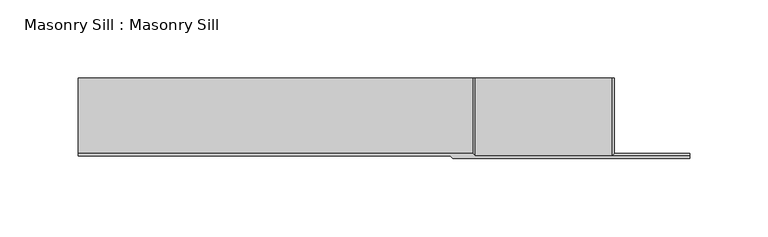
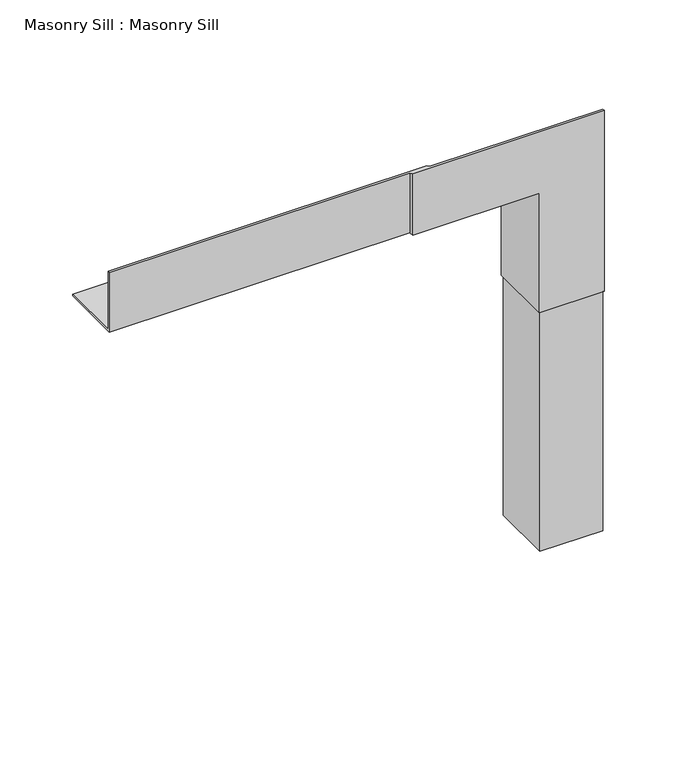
"""IFC4 building model written with IfcOpenShell, lengths in millimetres: proxy geometry, Masonry Sill : Masonry Sill."""

from ifc_helpers import new_model, si_unit, origin, place, context, project, spatial, faceted_brep, source, transform, mapped, element, save


def masonry_sill_masonry_sill_12063642(model_context):
    return source(origin(), model_context, "Body", "Brep", [
        faceted_brep([(26514.5726773, 626.0441297, 303.2125), (26514.5726773, 626.0441297, 353.2173158), (26514.5726773, 627.6316297, 353.2173158), (26514.5726773, 627.6316297, 304.8), (26514.5726773, 676.0489454, 304.8), (26514.5726773, 676.0489454, 303.2125), (26752.6976773, 626.0441297, 303.2125), (26752.6976773, 626.0441297, 353.2173158), (26754.2851773, 624.4566297, 353.2173158), (26905.8899931, 624.4566297, 353.2173158), (26905.8899931, 626.0441297, 353.2173158), (26768.5726773, 626.0441297, 353.2173158), (26766.9851773, 627.6316297, 353.2173158), (26766.9851773, 627.6316297, 304.8), (26766.9851773, 676.0489454, 304.8), (26768.5726773, 676.0489454, 303.2125), (26855.8851773, 676.0489454, 303.2125), (26855.8851773, 676.0489454, 215.9), (26857.4726773, 676.0489454, 214.3125), (26857.4726773, 676.0489454, 0.0), (26855.8851773, 676.0489454, 0.0), (26855.8851773, 676.0489454, 200.025), (26854.2976773, 676.0489454, 201.6125), (26854.2976773, 676.0489454, 301.625), (26754.2851773, 676.0489454, 301.625), (26752.6976773, 676.0489454, 303.2125), (26855.8851773, 626.0441297, 303.2125), (26768.5726773, 626.0441297, 303.2125), (26905.8899931, 626.0441297, 215.9), (26855.8851773, 626.0441297, 215.9), (26854.2976773, 624.4566297, 301.625), (26754.2851773, 624.4566297, 301.625), (26854.2976773, 624.4566297, 201.6125), (26905.8899931, 624.4566297, 201.6125), (26905.8899931, 626.0441297, 200.025), (26905.8899931, 626.0441297, 0.0), (26905.8899931, 627.6316297, 0.0), (26905.8899931, 627.6316297, 214.3125), (26855.8851773, 626.0441297, 0.0), (26857.4726773, 627.6316297, 0.0), (26855.8851773, 626.0441297, 200.025), (26857.4726773, 627.6316297, 214.3125)], [[[0, 1, 2, 3, 4, 5]], [[1, 0, 6, 7]], [[2, 1, 7, 8, 9, 10, 11, 12]], [[3, 2, 12, 13]], [[4, 3, 13, 14]], [[5, 4, 14, 15, 16, 17, 18, 19, 20, 21, 22, 23, 24, 25]], [[0, 5, 25, 6]], [[26, 27, 11, 10, 28, 29]], [[26, 16, 15, 27]], [[23, 30, 31, 24]], [[9, 8, 31, 30, 32, 33]], [[10, 9, 33, 34, 35, 36, 37, 28]], [[16, 26, 29, 17]], [[30, 23, 22, 32]], [[38, 20, 19, 39, 36, 35]], [[38, 35, 34, 40]], [[36, 39, 41, 37]], [[39, 19, 18, 41]], [[20, 38, 40, 21]], [[31, 6, 25, 24]], [[6, 31, 8, 7]], [[13, 27, 15, 14]], [[27, 13, 12, 11]], [[40, 32, 22, 21]], [[32, 40, 34, 33]], [[29, 41, 18, 17]], [[41, 29, 28, 37]]]),
    ])


if __name__ == "__main__":
    model = new_model("IFC4")
    model_context = context("Model", 3, world=origin())
    ifc_project = project(units=[si_unit("LENGTHUNIT", "METRE", prefix="MILLI")], contexts=[model_context])
    site = spatial("IfcSite", under=ifc_project)
    building = spatial("IfcBuilding", under=site)
    placement = place(None, origin())
    masonry_sill_masonry_sill_shape = masonry_sill_masonry_sill_12063642(model_context)
    element("IfcBuildingElementProxy", 1, Name="Masonry Sill : Masonry Sill", ObjectType="Masonry Sill : Masonry Sill", at=placement, inside=building, context=model_context, shape_type="MappedRepresentation", body=[
        mapped(masonry_sill_masonry_sill_shape, transform((0.0, 0.0, 0.0), x_axis=(1.0, 0.0, 0.0), y_axis=(0.0, 1.0, 0.0), z_axis=(0.0, 0.0, 1.0))),
    ])
    save(model, "model.ifc")
